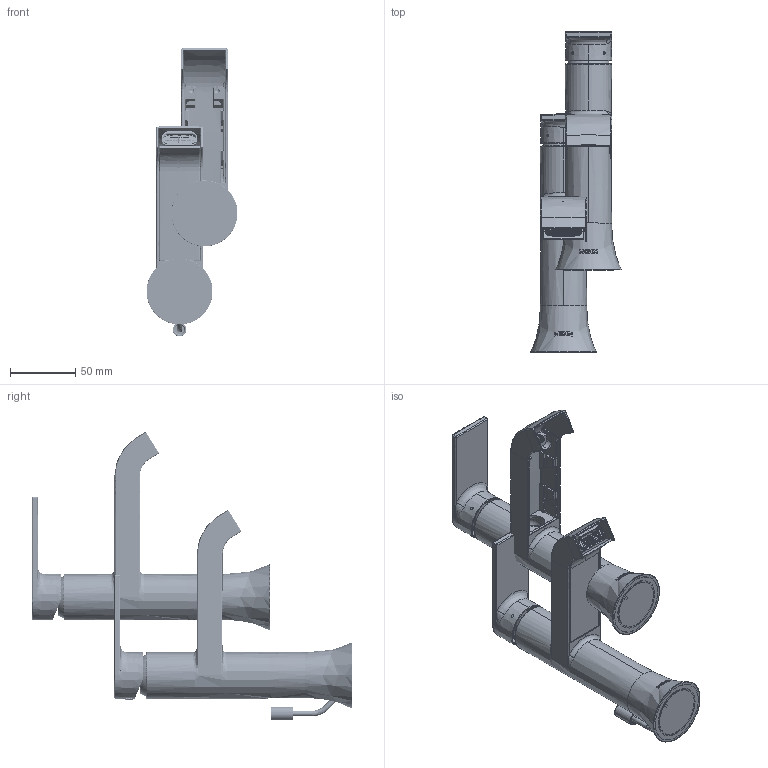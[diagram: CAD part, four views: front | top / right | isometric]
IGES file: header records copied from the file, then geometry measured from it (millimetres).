
Start section: SolidWorks IGES file using analytic representation for surfaces
Global section: file name: W:\mzhang7\6624\6706 Series\sku_6706series_igs.IGS; native system: SolidWorks 2023; preprocessor: SolidWorks 2023; author: mzhang7; date: 250304.131909; units: inch
Bounding box: 69.82 x 246.39 x 221.7 mm (x, y, z)
Volume: 118498.9 mm3; surface area: 168173.7 mm2
Topology: 8 solids, 14 shells, 5324 faces, 14767 edges, 9118 vertices
Faces by surface type: revolution 2506, plane 1719, bspline 1099
